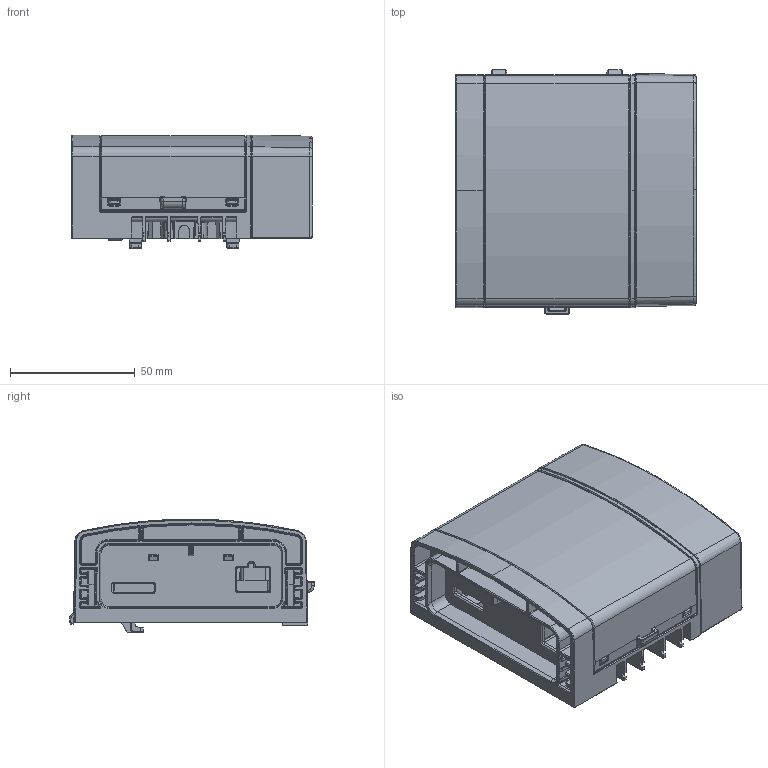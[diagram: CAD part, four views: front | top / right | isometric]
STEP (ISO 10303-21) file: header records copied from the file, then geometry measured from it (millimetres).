
FILE_DESCRIPTION (( 'STEP AP214' ), '1' );
FILE_NAME ('78114_Regelmodul D2.STEP', '2022-08-22T09:45:22', ( '' ), ( '' ), 'SwSTEP 2.0', 'SolidWorks 2022', '' );
FILE_SCHEMA (( 'AUTOMOTIVE_DESIGN' ));
Length unit declared in the file: millimetre
Products named in the file (5): Abschlusskappe Raumregelung_05 01 000737; Geh_X_E4use Reglermodul RM 2_05 01 000720; Grundeinheit 2 Draht Raumregelung 2012  _78114; 78114_Regelmodul D2; Sichthaube Reglermodul RM 2_05 01 000722
Assembly tree (4 placements, depth 3):
  78114_Regelmodul D2
    Grundeinheit 2 Draht Raumregelung 2012  _78114
      Sichthaube Reglermodul RM 2_05 01 000722
      Geh_X_E4use Reglermodul RM 2_05 01 000720
    Abschlusskappe Raumregelung_05 01 000737
Bounding box: 96.19 x 97.95 x 45.5 mm (x, y, z)
Volume: 100981.7 mm3; surface area: 114975.5 mm2
Topology: 3 solids, 3 shells, 4000 faces, 9958 edges, 5845 vertices
Faces by surface type: cylinder 1466, plane 1356, bspline 893, cone 266, torus 19
Entity records: 219090 total; most frequent: CARTESIAN_POINT 92538, ORIENTED_EDGE 19730, DIRECTION 13377, EDGE_CURVE 9865, VERTEX_POINT 5845, VECTOR 4511, LINE 4511, AXIS2_PLACEMENT_3D 4433
